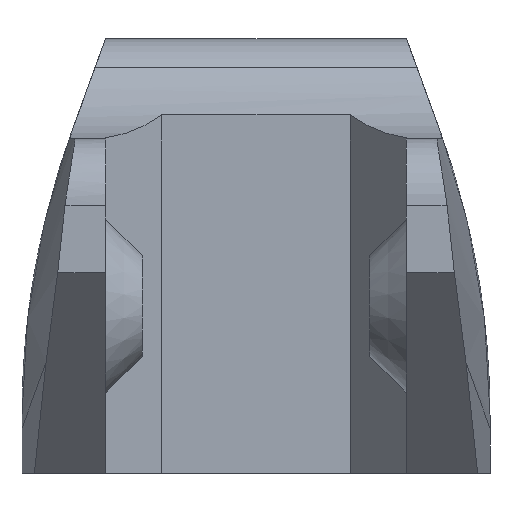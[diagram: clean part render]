
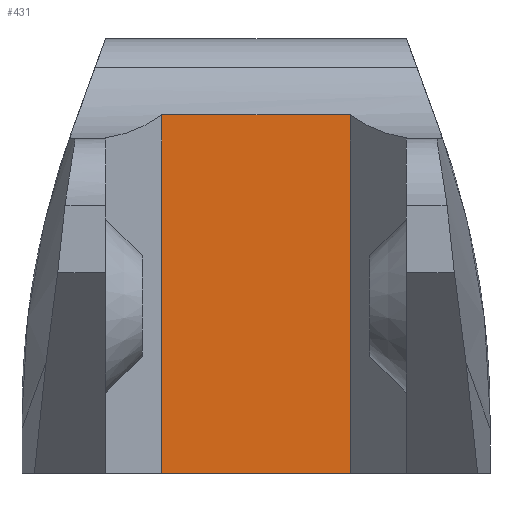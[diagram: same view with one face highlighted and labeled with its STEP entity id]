
A CAD part, front view. The second image highlights one B-rep face of the part: STEP entity #431.
In plain terms, the highlighted planar face has unit normal (0, -1, 0).
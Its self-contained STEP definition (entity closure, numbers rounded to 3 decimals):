
#61 = VECTOR ( 'NONE', #1061, 1000. ) ;
#62 = CARTESIAN_POINT ( 'NONE',  ( -2.822, -24., -13. ) ) ;
#345 = PLANE ( 'NONE',  #1028 ) ;
#431 = ADVANCED_FACE ( 'NONE', ( #746 ), #345, .T. ) ;
#517 = EDGE_CURVE ( 'NONE', #2075, #2996, #2727, .T. ) ;
#550 = ORIENTED_EDGE ( 'NONE', *, *, #1170, .T. ) ;
#705 = CARTESIAN_POINT ( 'NONE',  ( -2.822, -24., -13. ) ) ;
#746 = FACE_OUTER_BOUND ( 'NONE', #1348, .T. ) ;
#758 = CARTESIAN_POINT ( 'NONE',  ( 2.822, -24., -2.281 ) ) ;
#800 = CARTESIAN_POINT ( 'NONE',  ( 2.822, -24., -13. ) ) ;
#840 = VERTEX_POINT ( 'NONE', #758 ) ;
#1028 = AXIS2_PLACEMENT_3D ( 'NONE', #62, #1925, #1286 ) ;
#1061 = DIRECTION ( 'NONE',  ( 1., 0., 0. ) ) ;
#1073 = LINE ( 'NONE', #1987, #1380 ) ;
#1170 = EDGE_CURVE ( 'NONE', #840, #2996, #1489, .T. ) ;
#1286 = DIRECTION ( 'NONE',  ( 0., 0., -1. ) ) ;
#1348 = EDGE_LOOP ( 'NONE', ( #2329, #550, #2437, #1776 ) ) ;
#1380 = VECTOR ( 'NONE', #2500, 1000. ) ;
#1489 = LINE ( 'NONE', #2165, #2740 ) ;
#1506 = CARTESIAN_POINT ( 'NONE',  ( -2.822, -24., -2.281 ) ) ;
#1543 = DIRECTION ( 'NONE',  ( 0., 0., 1. ) ) ;
#1751 = CARTESIAN_POINT ( 'NONE',  ( -2.822, -24., -13. ) ) ;
#1776 = ORIENTED_EDGE ( 'NONE', *, *, #2268, .T. ) ;
#1778 = CARTESIAN_POINT ( 'NONE',  ( -2.822, -24., -13. ) ) ;
#1792 = LINE ( 'NONE', #1778, #61 ) ;
#1915 = DIRECTION ( 'NONE',  ( -1., 0., 0. ) ) ;
#1925 = DIRECTION ( 'NONE',  ( 0., -1., 0. ) ) ;
#1987 = CARTESIAN_POINT ( 'NONE',  ( 2.822, -24., -13. ) ) ;
#2075 = VERTEX_POINT ( 'NONE', #705 ) ;
#2142 = VERTEX_POINT ( 'NONE', #800 ) ;
#2165 = CARTESIAN_POINT ( 'NONE',  ( -501., -24., -2.281 ) ) ;
#2268 = EDGE_CURVE ( 'NONE', #2075, #2142, #1792, .T. ) ;
#2329 = ORIENTED_EDGE ( 'NONE', *, *, #2334, .T. ) ;
#2334 = EDGE_CURVE ( 'NONE', #2142, #840, #1073, .T. ) ;
#2392 = VECTOR ( 'NONE', #1543, 1000. ) ;
#2437 = ORIENTED_EDGE ( 'NONE', *, *, #517, .F. ) ;
#2500 = DIRECTION ( 'NONE',  ( 0., 0., 1. ) ) ;
#2727 = LINE ( 'NONE', #1751, #2392 ) ;
#2740 = VECTOR ( 'NONE', #1915, 1000. ) ;
#2996 = VERTEX_POINT ( 'NONE', #1506 ) ;
